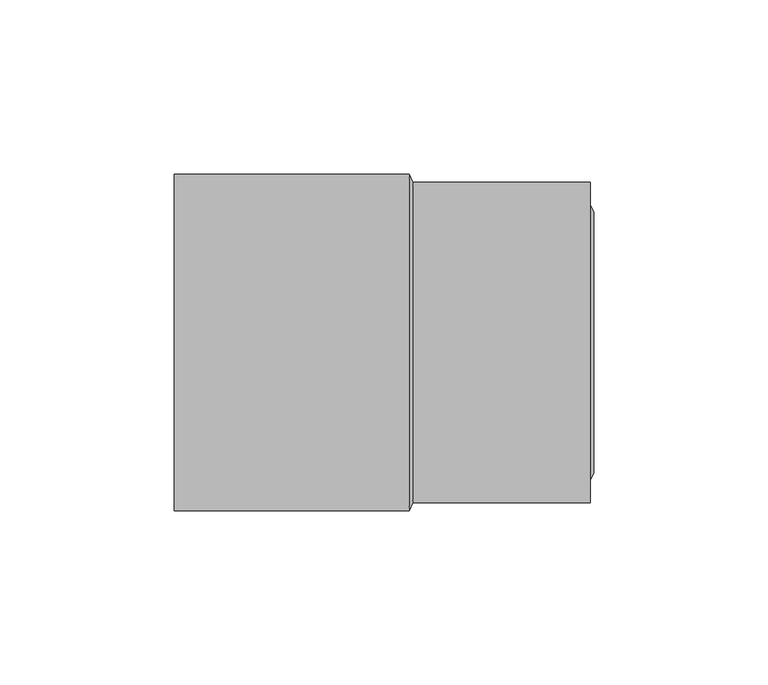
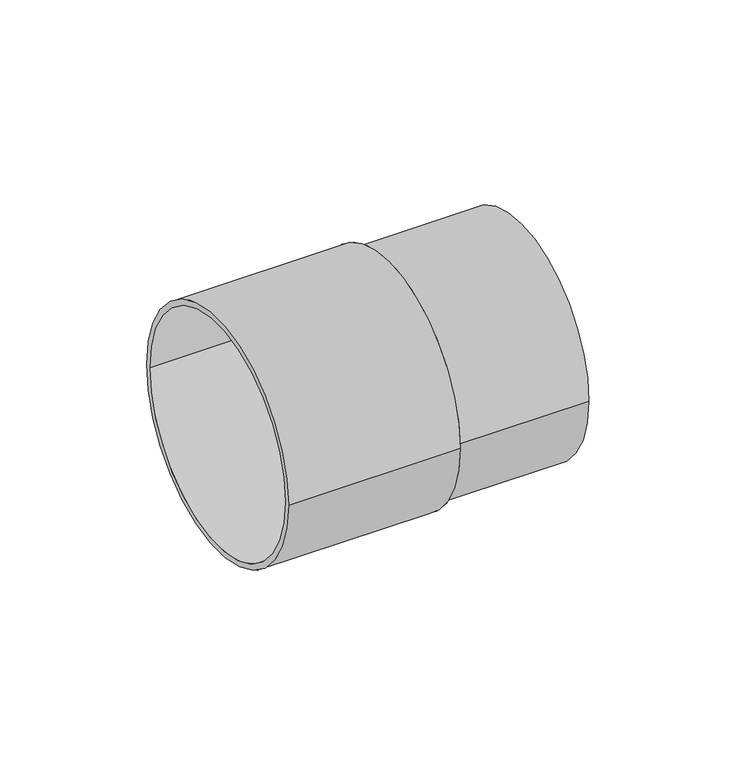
"""IFC4 building model written with IfcOpenShell, lengths in millimetres: pipe fitting geometry, Superdrain HTUG-Connection piece to cast-iron pipes : Superdrain HTUG-Connection piece to cast-iron pipes."""

from ifc_helpers import new_model, si_unit, point, frame, origin, origin_2d, place, context, project, spatial, polyline, circle_curve, trimmed, segment, composite_curve, outline, extrude, source, transform, mapped, element, save
from ifc_brep_helpers import plane_surface, revolved_surface, advanced_brep


def pipe_fitting_a793d895(model_context):
    return source(origin(), model_context, "Body", "SolidModel", [
        extrude(outline(composite_curve([segment(trimmed(circle_curve(origin_2d(), 39.375), [point((-39.375, 0.0))], [point((39.375, 0.0))], False, "CARTESIAN"), True, "CONTINUOUS"), segment(trimmed(circle_curve(origin_2d(), 39.375), [point((39.375, 0.0))], [point((-39.375, 0.0))], False, "CARTESIAN"), True, "CONTINUOUS")], self_intersect=False), holes=[composite_curve([segment(trimmed(circle_curve(origin_2d(), 37.5), [point((-37.5, 0.0))], [point((37.5, 0.0))], True, "CARTESIAN"), True, "CONTINUOUS"), segment(trimmed(circle_curve(origin_2d(), 37.5), [point((37.5, 0.0))], [point((-37.5, 0.0))], True, "CARTESIAN"), True, "CONTINUOUS")], self_intersect=False)]), frame((-15.5, 0.0, 0.0), z_axis=(1.0, 0.0, 0.0), x_axis=(0.0, 1.0, 0.0)), (0.0, 0.0, 1.0), 67.5),
        advanced_brep(
        [(53.0, -37.5, 0.0), (53.0, 37.5, 0.0), (52.0, -39.375, 0.0), (52.0, 39.375, 0.0)],
        [
            (0, 1, circle_curve(frame((53.0, 0.0, 0.0), z_axis=(1.0, 0.0, 0.0), x_axis=(0.0, -1.0, 0.0)), 37.5)),
            (1, 0, circle_curve(frame((53.0, 0.0, 0.0), z_axis=(1.0, 0.0, 0.0), x_axis=(0.0, 1.0, 0.0)), 37.5)),
            (2, 3, circle_curve(frame((52.0, 0.0, 0.0), z_axis=(-1.0, 0.0, 0.0), x_axis=(0.0, 1.0, 0.0)), 39.375)),
            (3, 2, circle_curve(frame((52.0, 0.0, 0.0), z_axis=(-1.0, 0.0, 0.0), x_axis=(0.0, -1.0, 0.0)), 39.375)),
            (3, 1),
            (0, 2),
        ],
        [
            plane_surface(frame((53.0, 0.0, 0.0), z_axis=(1.0, 0.0, 0.0), x_axis=(0.0, 0.0, -1.0))),
            plane_surface(frame((52.0, 0.0, 0.0), z_axis=(-1.0, 0.0, 0.0), x_axis=(0.0, 0.0, -1.0))),
            revolved_surface(polyline([(53.0, -37.5, 0.0), (52.0, -39.375, 0.0)]), (73.0, 0.0, 0.0), (-1.0, 0.0, 0.0)),
            revolved_surface(polyline([(53.0, 37.5, 0.0), (52.0, 39.375, 0.0)]), (73.0, 0.0, 0.0), (-1.0, 0.0, 0.0)),
        ],
        [
            (0, [[1, 2]]),
            (1, [[3, 4]]),
            (2, [[-4, 5, -1, 6]]),
            (3, [[-3, -6, -2, -5]]),
        ],
    ),
        extrude(outline(composite_curve([segment(trimmed(circle_curve(origin_2d(), 48.3), [point((-48.3, 0.0))], [point((48.3, 0.0))], False, "CARTESIAN"), True, "CONTINUOUS"), segment(trimmed(circle_curve(origin_2d(), 48.3), [point((48.3, 0.0))], [point((-48.3, 0.0))], False, "CARTESIAN"), True, "CONTINUOUS")], self_intersect=False), holes=[composite_curve([segment(trimmed(circle_curve(origin_2d(), 46.0), [point((-46.0, 0.0))], [point((46.0, 0.0))], True, "CARTESIAN"), True, "CONTINUOUS"), segment(trimmed(circle_curve(origin_2d(), 46.0), [point((46.0, 0.0))], [point((-46.0, 0.0))], True, "CARTESIAN"), True, "CONTINUOUS")], self_intersect=False)]), frame((-67.5, 0.0, 0.0), z_axis=(1.0, 0.0, 0.0), x_axis=(0.0, 1.0, 0.0)), (0.0, 0.0, 1.0), 67.5),
        advanced_brep(
        [(1.0, -46.0, 0.0), (1.0, 46.0, 0.0), (0.0, -48.3, 0.0), (0.0, 48.3, 0.0)],
        [
            (0, 1, circle_curve(frame((1.0, 0.0, 0.0), z_axis=(1.0, 0.0, 0.0), x_axis=(0.0, -1.0, 0.0)), 46.0)),
            (1, 0, circle_curve(frame((1.0, 0.0, 0.0), z_axis=(1.0, 0.0, 0.0), x_axis=(0.0, 1.0, 0.0)), 46.0)),
            (2, 3, circle_curve(frame((0.0, 0.0, 0.0), z_axis=(-1.0, 0.0, 0.0), x_axis=(0.0, 1.0, 0.0)), 48.3)),
            (3, 2, circle_curve(frame((0.0, 0.0, 0.0), z_axis=(-1.0, 0.0, 0.0), x_axis=(0.0, -1.0, 0.0)), 48.3)),
            (3, 1),
            (0, 2),
        ],
        [
            plane_surface(frame((1.0, 0.0, 0.0), z_axis=(1.0, 0.0, 0.0), x_axis=(0.0, 0.0, -1.0))),
            plane_surface(frame((0.0, 0.0, 0.0), z_axis=(-1.0, 0.0, 0.0), x_axis=(0.0, 0.0, -1.0))),
            revolved_surface(polyline([(1.0, -45.99999999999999, 0.0), (0.0, -48.3, 0.0)]), (21.0, 0.0, 0.0), (-1.0, 0.0, 0.0)),
            revolved_surface(polyline([(1.0, 45.99999999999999, 0.0), (0.0, 48.3, 0.0)]), (21.0, 0.0, 0.0), (-1.0, 0.0, 0.0)),
        ],
        [
            (0, [[1, 2]]),
            (1, [[3, 4]]),
            (2, [[-4, 5, -1, 6]]),
            (3, [[-3, -6, -2, -5]]),
        ],
    ),
        extrude(outline(composite_curve([segment(trimmed(circle_curve(origin_2d(), 46.0), [point((-46.0, 0.0))], [point((46.0, 0.0))], False, "CARTESIAN"), True, "CONTINUOUS"), segment(trimmed(circle_curve(origin_2d(), 46.0), [point((46.0, 0.0))], [point((-46.0, 0.0))], False, "CARTESIAN"), True, "CONTINUOUS")], self_intersect=False)), frame((0.0, 0.0, 0.0), z_axis=(1.0, 0.0, 0.0), x_axis=(0.0, 1.0, 0.0)), (0.0, 0.0, 1.0), 52.0),
    ])


if __name__ == "__main__":
    model = new_model("IFC4")
    model_context = context("Model", 3, world=origin())
    ifc_project = project(units=[si_unit("LENGTHUNIT", "METRE", prefix="MILLI")], contexts=[model_context])
    site = spatial("IfcSite", under=ifc_project)
    building = spatial("IfcBuilding", under=site)
    placement = place(None, origin())
    pipe_fitting_shape = pipe_fitting_a793d895(model_context)
    element("IfcPipeFitting", 1, ObjectType="Superdrain HTUG-Connection piece to cast-iron pipes : Superdrain HTUG-Connection piece to cast-iron pipes", at=placement, inside=building, context=model_context, shape_type="MappedRepresentation", body=[
        mapped(pipe_fitting_shape, transform((0.0, 0.0, 0.0), x_axis=(1.0, 0.0, 0.0), y_axis=(0.0, 1.0, 0.0), z_axis=(0.0, 0.0, 1.0))),
    ])
    save(model, "model.ifc")
